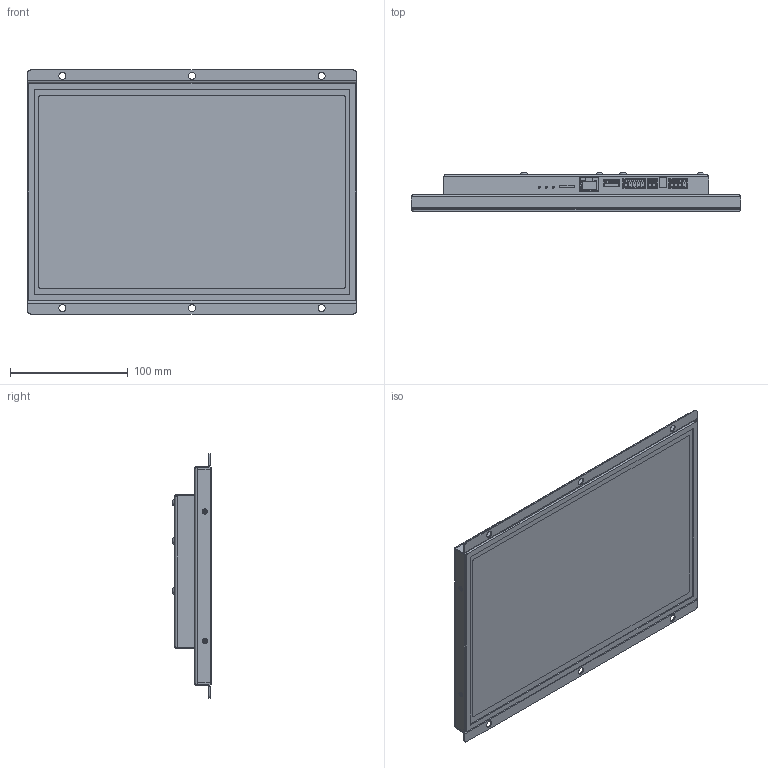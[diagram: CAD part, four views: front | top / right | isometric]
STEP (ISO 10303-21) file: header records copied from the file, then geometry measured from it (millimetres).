
FILE_DESCRIPTION(/* description */ ('fel4B-02A-12,1 Zoll LT-Line'),/* implementation_level */ '2;1');
FILE_NAME(/* name */ 'Z:\Teildatei Inventor\Inventor-Bibliothek\0000 0000 Bauteile\Bildschirme\TFT 12_1 Zoll 16_9_Rev1-0\20000094 fel4B-02A-12,1 Zoll LT-Line.stp',/* time_stamp */ '2019-11-04T10:19:44+01:00',/* author */ ('Markus Lahey'),/* organization */ (''),/* preprocessor_version */ 'ST-DEVELOPER v17.2',/* originating_system */ 'Autodesk Inventor 2019',/* authorisation */ '');
FILE_SCHEMA (('AUTOMOTIVE_DESIGN { 1 0 10303 214 3 1 1 }'));
Length unit declared in the file: millimetre
Products named in the file (1): 20000094 
Bounding box: 279.5 x 32.65 x 207 mm (x, y, z)
Volume: 673753.8 mm3; surface area: 356816.2 mm2
Topology: 16 solids, 16 shells, 1047 faces, 2720 edges, 1768 vertices
Faces by surface type: plane 697, cylinder 173, bspline 131, cone 32, torus 10, sphere 4
Full cylindrical faces by diameter (mm): 0.4 x11, 1.5 x3, 1.567 x4, 2 x8, 2.459 x2, 2.6 x4, 3 x6, 3.1 x6, 3.45 x4, 3.8 x4, 4.4 x4, 5.7 x6, 6 x6
Entity records: 34443 total; most frequent: CARTESIAN_POINT 8019, ORIENTED_EDGE 5412, DIRECTION 4748, EDGE_CURVE 2706, LINE 1914, VECTOR 1914, VERTEX_POINT 1768, AXIS2_PLACEMENT_3D 1417
